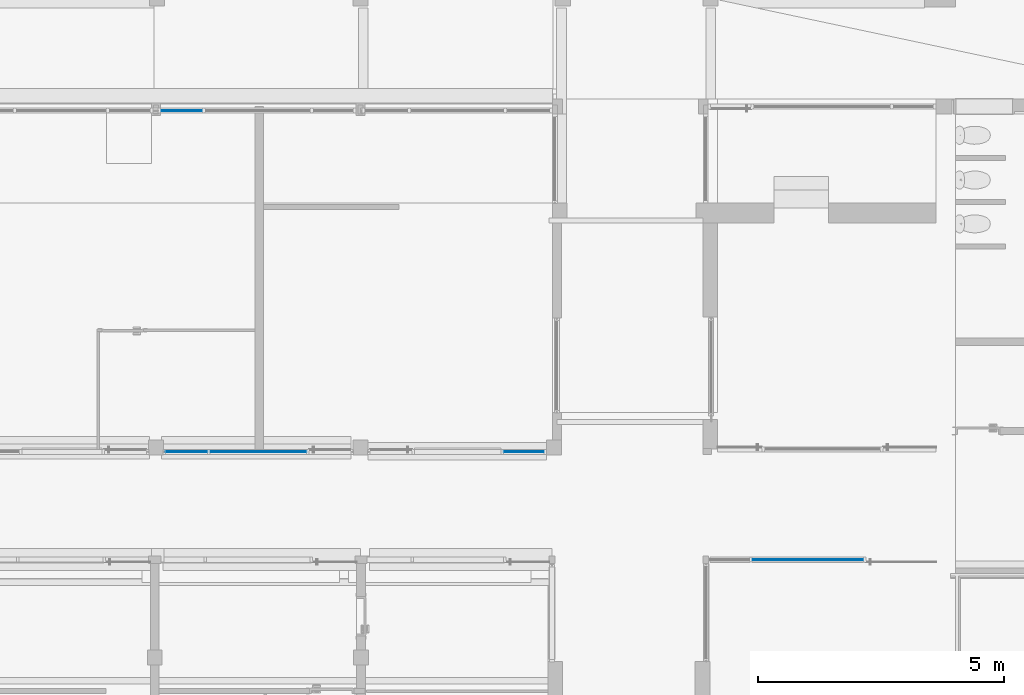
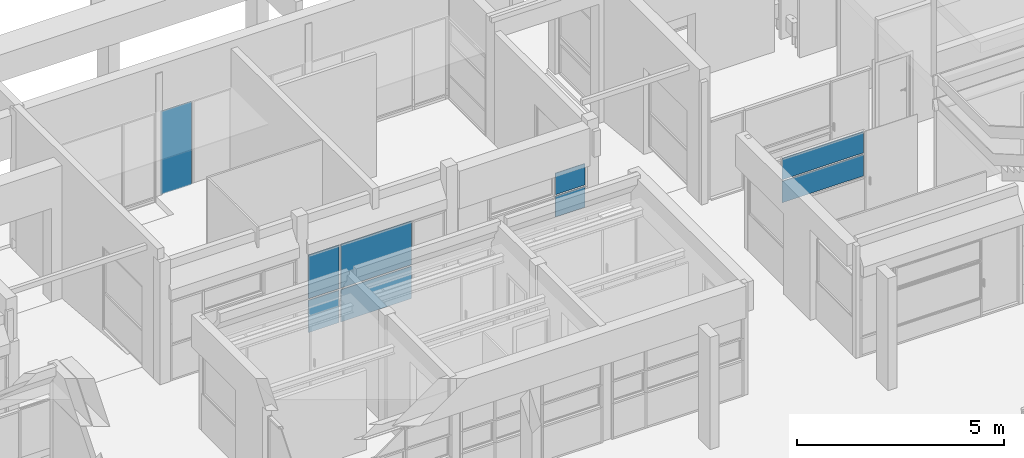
# One storey, part 41 of 117: 9 plates, 4 elements without a shape of their own.
"""IFC4 building model written with IfcOpenShell, lengths in metres."""

from ifc_helpers import new_model, entity, si_unit, converted_unit, derived_unit, direction, frame, origin, place, context, subcontext, project, spatial, indexed_curve, outline, extrude, source, transform, mapped, material, type_object, type_shapes, element, aggregate, save


model = new_model("IFC4")

# Units and contexts
model_context = context("Model", 3, precision=1e-05, world=origin(), true_north=direction((6.123031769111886e-17, 1.0)))
body_context = subcontext(model_context, "Body", "Model", "MODEL_VIEW")
ifc_project = project(units=[si_unit("LENGTHUNIT", "METRE"), si_unit("AREAUNIT", "SQUARE_METRE"), si_unit("VOLUMEUNIT", "CUBIC_METRE"), converted_unit("PLANEANGLEUNIT", "DEGREE", entity("IfcRatioMeasure", 0.017453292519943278), si_unit("PLANEANGLEUNIT", "RADIAN"), dimensions=[0, 0, 0, 0, 0, 0, 0]), si_unit("MASSUNIT", "GRAM", prefix="KILO"), derived_unit("MASSDENSITYUNIT", [(si_unit("MASSUNIT", "GRAM", prefix="KILO"), 1), (si_unit("LENGTHUNIT", "METRE"), -3)]), derived_unit("MOMENTOFINERTIAUNIT", [(si_unit("LENGTHUNIT", "METRE"), 4)]), si_unit("TIMEUNIT", "SECOND"), si_unit("FREQUENCYUNIT", "HERTZ"), si_unit("THERMODYNAMICTEMPERATUREUNIT", "DEGREE_CELSIUS"), derived_unit("THERMALTRANSMITTANCEUNIT", [(si_unit("MASSUNIT", "GRAM", prefix="KILO"), 1), (si_unit("THERMODYNAMICTEMPERATUREUNIT", "KELVIN"), -1), (si_unit("TIMEUNIT", "SECOND"), -3)]), derived_unit("VOLUMETRICFLOWRATEUNIT", [(si_unit("LENGTHUNIT", "METRE"), 3), (si_unit("TIMEUNIT", "SECOND"), -1)]), derived_unit("MASSFLOWRATEUNIT", [(si_unit("MASSUNIT", "GRAM", prefix="KILO"), 1), (si_unit("TIMEUNIT", "SECOND"), -1)]), derived_unit("ROTATIONALFREQUENCYUNIT", [(si_unit("TIMEUNIT", "SECOND"), -1)]), si_unit("ELECTRICCURRENTUNIT", "AMPERE"), si_unit("ELECTRICVOLTAGEUNIT", "VOLT"), si_unit("POWERUNIT", "WATT"), si_unit("FORCEUNIT", "NEWTON", prefix="KILO"), si_unit("ILLUMINANCEUNIT", "LUX"), si_unit("LUMINOUSFLUXUNIT", "LUMEN"), si_unit("LUMINOUSINTENSITYUNIT", "CANDELA"), derived_unit("USERDEFINED", [(si_unit("MASSUNIT", "GRAM", prefix="KILO"), -1), (si_unit("LENGTHUNIT", "METRE"), -2), (si_unit("TIMEUNIT", "SECOND"), 3), (si_unit("LUMINOUSFLUXUNIT", "LUMEN"), 1)]), derived_unit("SOUNDPOWERUNIT", [(si_unit("MASSUNIT", "GRAM", prefix="KILO"), 1), (si_unit("LENGTHUNIT", "METRE"), 2), (si_unit("TIMEUNIT", "SECOND"), -3)]), derived_unit("SOUNDPRESSUREUNIT", [(si_unit("MASSUNIT", "GRAM", prefix="KILO"), 1), (si_unit("LENGTHUNIT", "METRE"), -1), (si_unit("TIMEUNIT", "SECOND"), -2)]), derived_unit("LINEARVELOCITYUNIT", [(si_unit("LENGTHUNIT", "METRE"), 1), (si_unit("TIMEUNIT", "SECOND"), -1)]), si_unit("PRESSUREUNIT", "PASCAL"), derived_unit("USERDEFINED", [(si_unit("LENGTHUNIT", "METRE"), -2), (si_unit("MASSUNIT", "GRAM", prefix="KILO"), 1), (si_unit("TIMEUNIT", "SECOND"), -2)]), derived_unit("LINEARFORCEUNIT", [(si_unit("MASSUNIT", "GRAM", prefix="KILO"), 1), (si_unit("LENGTHUNIT", "METRE"), 1), (si_unit("TIMEUNIT", "SECOND"), -2), (si_unit("LENGTHUNIT", "METRE"), -1)]), derived_unit("PLANARFORCEUNIT", [(si_unit("MASSUNIT", "GRAM", prefix="KILO"), 1), (si_unit("LENGTHUNIT", "METRE"), 1), (si_unit("TIMEUNIT", "SECOND"), -2), (si_unit("LENGTHUNIT", "METRE"), -2)])], contexts=[model_context])

# Site, building, storey
site_placement = place(None, origin())
site = spatial("IfcSite", under=ifc_project, at=site_placement, Name="Superficie", CompositionType="ELEMENT")
building_placement = place(site_placement, origin())
building = spatial("IfcBuilding", under=site, at=building_placement, CompositionType="ELEMENT")
storey_placement = place(building_placement, origin())
storey = spatial("IfcBuildingStorey", under=building, at=storey_placement, Name="Nivel 0", CompositionType="ELEMENT", Elevation=0.0)

# Curtain wall, plates
curtain_wall_type = type_object("IfcCurtainWallType", Name="Muro cortina:Muro cortina - simple", PredefinedType="NOTDEFINED")
curtain_wall_1_placement = place(storey_placement, origin())
curtain_wall_1 = element("IfcCurtainWall", 1, at=curtain_wall_1_placement, inside=storey, type_object=curtain_wall_type, Name="Muro cortina:Muro cortina - simple", ObjectType="Muro cortina:Muro cortina - simple", PredefinedType="NOTDEFINED")
ifc_material = material(Name="Cristal", Category="Vidrio")
plate_type_1 = type_object("IfcPlateType", Name="Panel de sistema:Acristalado", PredefinedType="CURTAIN_PANEL", material=ifc_material)
shared_shape_1 = source(origin(), body_context, "Body", "SweptSolid", [
    extrude(outline(indexed_curve([(-0.01, -1.1299999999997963), (0.01, -1.1299999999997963), (0.01, 1.1299999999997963), (-0.01, 1.1299999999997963), (-0.01, -1.1299999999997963)], self_intersect=False)), frame((0.0, 0.0, 0.0), z_axis=(0.0, 0.0, 1.0), x_axis=(0.0, 1.0, 0.0)), (0.0, 0.0, 1.0), 0.6275000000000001),
])
type_shapes(plate_type_1, [shared_shape_1])
plate_1_placement = place(curtain_wall_1_placement, frame((17.981001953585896, 3.525713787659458, 1.025), z_axis=(0.0, 0.0, 1.0), x_axis=(-1.0, 0.0, 0.0)))
plate_1 = element("IfcPlate", 2, at=plate_1_placement, type_object=plate_type_1, material=ifc_material, Name="Panel de sistema:Acristalado", ObjectType="Panel de sistema:Acristalado", PredefinedType="CURTAIN_PANEL", context=body_context, shape_type="MappedRepresentation", body=[
    mapped(shared_shape_1, transform((0.0, 0.0, 0.0), scale=1.0)),
])
plate_2_placement = place(curtain_wall_1_placement, frame((17.981001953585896, 3.525713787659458, 1.7025), z_axis=(0.0, 0.0, 1.0), x_axis=(-1.0, 0.0, 0.0)))
plate_2 = element("IfcPlate", 3, at=plate_2_placement, type_object=plate_type_1, material=ifc_material, Name="Panel de sistema:Acristalado", ObjectType="Panel de sistema:Acristalado", PredefinedType="CURTAIN_PANEL", context=body_context, shape_type="MappedRepresentation", body=[
    mapped(shared_shape_1, transform((0.0, 0.0, 0.0), scale=1.0)),
])
aggregate(curtain_wall_1, [plate_1, plate_2])

curtain_wall_2_placement = place(storey_placement, origin())
curtain_wall_2 = element("IfcCurtainWall", 4, at=curtain_wall_2_placement, inside=storey, type_object=curtain_wall_type, Name="Muro cortina:Muro cortina - simple", ObjectType="Muro cortina:Muro cortina - simple", PredefinedType="NOTDEFINED")
plate_type_2 = type_object("IfcPlateType", Name="Panel de sistema:Acristalado", PredefinedType="CURTAIN_PANEL", material=ifc_material)
shared_shape_2 = source(origin(), body_context, "Body", "SweptSolid", [
    extrude(outline(indexed_curve([(-0.01, -0.41249999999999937), (0.01, -0.41249999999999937), (0.01, 0.41249999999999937), (-0.01, 0.41249999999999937), (-0.01, -0.41249999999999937)], self_intersect=False)), frame((0.0, 0.0, 0.0), z_axis=(0.0, 0.0, 1.0), x_axis=(0.0, 1.0, 0.0)), (0.0, 0.0, 1.0), 0.605),
])
type_shapes(plate_type_2, [shared_shape_2])
plate_3_placement = place(curtain_wall_2_placement, frame((12.209299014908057, 5.716739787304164, 1.045)))
plate_3 = element("IfcPlate", 5, at=plate_3_placement, type_object=plate_type_2, material=ifc_material, Name="Panel de sistema:Acristalado", ObjectType="Panel de sistema:Acristalado", PredefinedType="CURTAIN_PANEL", context=body_context, shape_type="MappedRepresentation", body=[
    mapped(shared_shape_2, transform((0.0, 0.0, 0.0), scale=1.0)),
])
plate_type_3 = type_object("IfcPlateType", Name="Panel de sistema:Acristalado", PredefinedType="CURTAIN_PANEL", material=ifc_material)
shared_shape_3 = source(origin(), body_context, "Body", "SweptSolid", [
    extrude(outline(indexed_curve([(-0.01, -0.41249999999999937), (0.01, -0.41249999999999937), (0.01, 0.41249999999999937), (-0.01, 0.41249999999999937), (-0.01, -0.41249999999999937)], self_intersect=False)), frame((0.0, 0.0, 0.0), z_axis=(0.0, 0.0, 1.0), x_axis=(0.0, 1.0, 0.0)), (0.0, 0.0, 1.0), 0.63),
])
type_shapes(plate_type_3, [shared_shape_3])
plate_4_placement = place(curtain_wall_2_placement, frame((12.209299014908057, 5.716739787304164, 1.7)))
plate_4 = element("IfcPlate", 6, at=plate_4_placement, type_object=plate_type_3, material=ifc_material, Name="Panel de sistema:Acristalado", ObjectType="Panel de sistema:Acristalado", PredefinedType="CURTAIN_PANEL", context=body_context, shape_type="MappedRepresentation", body=[
    mapped(shared_shape_3, transform((0.0, 0.0, 0.0), scale=1.0)),
])
aggregate(curtain_wall_2, [plate_3, plate_4])

curtain_wall_3_placement = place(storey_placement, origin())
curtain_wall_3 = element("IfcCurtainWall", 7, at=curtain_wall_3_placement, inside=storey, type_object=curtain_wall_type, Name="Muro cortina:Muro cortina - simple", ObjectType="Muro cortina:Muro cortina - simple", PredefinedType="NOTDEFINED")
plate_type_4 = type_object("IfcPlateType", Name="Panel de sistema:Acristalado", PredefinedType="CURTAIN_PANEL", material=ifc_material)
shared_shape_4 = source(origin(), body_context, "Body", "SweptSolid", [
    extrude(outline(indexed_curve([(-0.01, -0.4250000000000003), (0.01, -0.4250000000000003), (0.01, 0.4250000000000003), (-0.01, 0.4250000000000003), (-0.01, -0.4250000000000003)], self_intersect=False)), frame((0.0, 0.0, 0.0), z_axis=(0.0, 0.0, 1.0), x_axis=(0.0, 1.0, 0.0)), (0.0, 0.0, 1.0), 0.95),
])
type_shapes(plate_type_4, [shared_shape_4])
plate_5_placement = place(curtain_wall_3_placement, frame((5.3515520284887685, 5.716739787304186, 0.04499999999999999)))
plate_5 = element("IfcPlate", 8, at=plate_5_placement, type_object=plate_type_4, material=ifc_material, Name="Panel de sistema:Acristalado", ObjectType="Panel de sistema:Acristalado", PredefinedType="CURTAIN_PANEL", context=body_context, shape_type="MappedRepresentation", body=[
    mapped(shared_shape_4, transform((0.0, 0.0, 0.0), scale=1.0)),
])
plate_type_5 = type_object("IfcPlateType", Name="Panel de sistema:Acristalado", PredefinedType="CURTAIN_PANEL", material=ifc_material)
shared_shape_5 = source(origin(), body_context, "Body", "SweptSolid", [
    extrude(outline(indexed_curve([(-0.01, -0.9850000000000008), (0.01, -0.9850000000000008), (0.01, 0.9850000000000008), (-0.01, 0.9850000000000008), (-0.01, -0.9850000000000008)], self_intersect=False)), frame((0.0, 0.0, 0.0), z_axis=(0.0, 0.0, 1.0), x_axis=(0.0, 1.0, 0.0)), (0.0, 0.0, 1.0), 0.9500000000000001),
])
type_shapes(plate_type_5, [shared_shape_5])
plate_6_placement = place(curtain_wall_3_placement, frame((6.81155202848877, 5.7167397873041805, 0.04499999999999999)))
plate_6 = element("IfcPlate", 9, at=plate_6_placement, type_object=plate_type_5, material=ifc_material, Name="Panel de sistema:Acristalado", ObjectType="Panel de sistema:Acristalado", PredefinedType="CURTAIN_PANEL", context=body_context, shape_type="MappedRepresentation", body=[
    mapped(shared_shape_5, transform((0.0, 0.0, 0.0), scale=1.0)),
])
plate_type_6 = type_object("IfcPlateType", Name="Panel de sistema:Acristalado", PredefinedType="CURTAIN_PANEL", material=ifc_material)
shared_shape_6 = source(origin(), body_context, "Body", "SweptSolid", [
    extrude(outline(indexed_curve([(-0.01, -0.4250000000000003), (0.01, -0.4250000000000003), (0.01, 0.4250000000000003), (-0.01, 0.4250000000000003), (-0.01, -0.4250000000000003)], self_intersect=False)), frame((0.0, 0.0, 0.0), z_axis=(0.0, 0.0, 1.0), x_axis=(0.0, 1.0, 0.0)), (0.0, 0.0, 1.0), 1.2849999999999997),
])
type_shapes(plate_type_6, [shared_shape_6])
plate_7_placement = place(curtain_wall_3_placement, frame((5.3515520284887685, 5.716739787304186, 1.045)))
plate_7 = element("IfcPlate", 10, at=plate_7_placement, type_object=plate_type_6, material=ifc_material, Name="Panel de sistema:Acristalado", ObjectType="Panel de sistema:Acristalado", PredefinedType="CURTAIN_PANEL", context=body_context, shape_type="MappedRepresentation", body=[
    mapped(shared_shape_6, transform((0.0, 0.0, 0.0), scale=1.0)),
])
plate_type_7 = type_object("IfcPlateType", Name="Panel de sistema:Acristalado", PredefinedType="CURTAIN_PANEL", material=ifc_material)
shared_shape_7 = source(origin(), body_context, "Body", "SweptSolid", [
    extrude(outline(indexed_curve([(-0.01, -0.9850000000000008), (0.01, -0.9850000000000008), (0.01, 0.9850000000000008), (-0.01, 0.9850000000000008), (-0.01, -0.9850000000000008)], self_intersect=False)), frame((0.0, 0.0, 0.0), z_axis=(0.0, 0.0, 1.0), x_axis=(0.0, 1.0, 0.0)), (0.0, 0.0, 1.0), 1.2849999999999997),
])
type_shapes(plate_type_7, [shared_shape_7])
plate_8_placement = place(curtain_wall_3_placement, frame((6.81155202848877, 5.7167397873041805, 1.045)))
plate_8 = element("IfcPlate", 11, at=plate_8_placement, type_object=plate_type_7, material=ifc_material, Name="Panel de sistema:Acristalado", ObjectType="Panel de sistema:Acristalado", PredefinedType="CURTAIN_PANEL", context=body_context, shape_type="MappedRepresentation", body=[
    mapped(shared_shape_7, transform((0.0, 0.0, 0.0), scale=1.0)),
])
aggregate(curtain_wall_3, [plate_5, plate_6, plate_7, plate_8])

# Curtain wall, plate
curtain_wall_4_placement = place(storey_placement, origin())
curtain_wall_4 = element("IfcCurtainWall", 12, at=curtain_wall_4_placement, inside=storey, type_object=curtain_wall_type, Name="Muro cortina:Muro cortina - simple", ObjectType="Muro cortina:Muro cortina - simple", PredefinedType="NOTDEFINED")
plate_type_8 = type_object("IfcPlateType", Name="Panel de sistema:Acristalado", PredefinedType="CURTAIN_PANEL", material=ifc_material)
shared_shape_8 = source(origin(), body_context, "Body", "SweptSolid", [
    extrude(outline(indexed_curve([(-0.01, -0.4250000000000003), (0.01, -0.4250000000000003), (0.01, 0.4250000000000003), (-0.01, 0.4250000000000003), (-0.01, -0.4250000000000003)], self_intersect=False)), frame((0.0, 0.0, 0.0), z_axis=(0.0, 0.0, 1.0), x_axis=(0.0, 1.0, 0.0)), (0.0, 0.0, 1.0), 2.45147709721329),
])
type_shapes(plate_type_8, [shared_shape_8])
plate_9_placement = place(curtain_wall_4_placement, frame((5.251552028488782, 12.654548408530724, -0.06147709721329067), z_axis=(0.0, 0.0, 1.0), x_axis=(-1.0, 0.0, 0.0)))
plate_9 = element("IfcPlate", 13, at=plate_9_placement, type_object=plate_type_8, material=ifc_material, Name="Panel de sistema:Acristalado", ObjectType="Panel de sistema:Acristalado", PredefinedType="CURTAIN_PANEL", context=body_context, shape_type="MappedRepresentation", body=[
    mapped(shared_shape_8, transform((0.0, 0.0, 0.0), scale=1.0)),
])
aggregate(curtain_wall_4, [plate_9])

save(model, "model.ifc")
